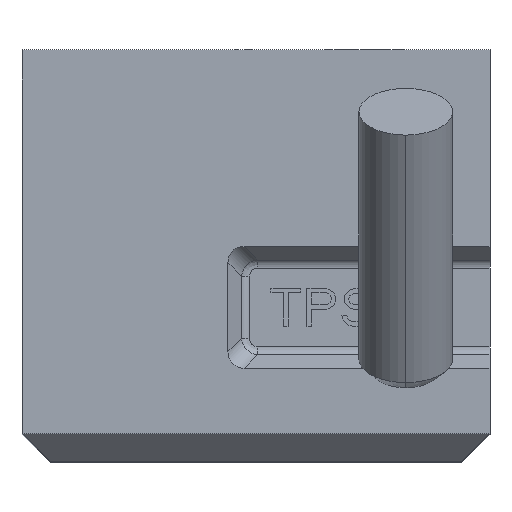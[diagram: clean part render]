
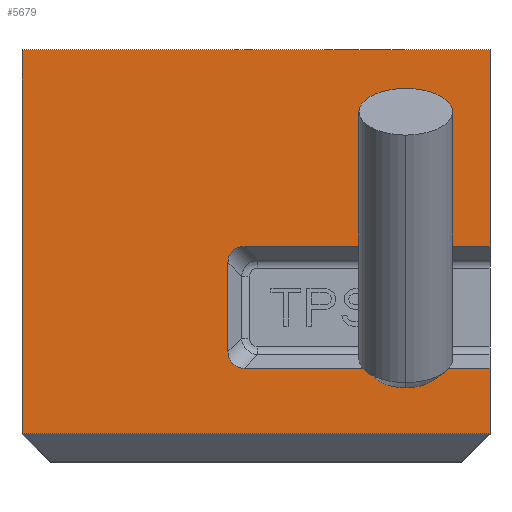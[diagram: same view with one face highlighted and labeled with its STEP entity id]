
A CAD part, top view. The second image highlights one B-rep face of the part: STEP entity #5679.
In plain terms, the highlighted planar face has unit normal (0, 0, 1).
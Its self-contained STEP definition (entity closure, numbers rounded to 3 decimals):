
#634=DIRECTION('',(0.,1.,0.));
#635=VECTOR('',#634,4.768);
#636=CARTESIAN_POINT('',(-1.5,5.866,5.));
#637=LINE('',#636,#635);
#638=CARTESIAN_POINT('',(-1.5,5.866,5.));
#639=CARTESIAN_POINT('',(-1.5,5.794,5.));
#640=CARTESIAN_POINT('',(-1.486,5.664,5.));
#641=CARTESIAN_POINT('',(-1.418,5.443,5.));
#642=CARTESIAN_POINT('',(-1.272,5.228,5.));
#643=CARTESIAN_POINT('',(-1.057,5.082,5.));
#644=CARTESIAN_POINT('',(-0.836,5.014,5.));
#645=CARTESIAN_POINT('',(-0.706,5.,5.));
#646=CARTESIAN_POINT('',(-0.634,5.,5.));
#648=DIRECTION('',(-1.,0.,0.));
#649=VECTOR('',#648,13.134);
#650=CARTESIAN_POINT('',(12.5,5.,5.));
#651=LINE('',#650,#649);
#652=DIRECTION('',(0.,-1.,0.));
#653=VECTOR('',#652,3.5);
#654=CARTESIAN_POINT('',(12.5,5.,5.));
#655=LINE('',#654,#653);
#656=DIRECTION('',(-1.,0.,0.));
#657=VECTOR('',#656,25.);
#658=CARTESIAN_POINT('',(12.5,1.5,5.));
#659=LINE('',#658,#657);
#660=DIRECTION('',(0.,1.,0.));
#661=VECTOR('',#660,20.5);
#662=CARTESIAN_POINT('',(-12.5,1.5,5.));
#663=LINE('',#662,#661);
#664=DIRECTION('',(1.,0.,0.));
#665=VECTOR('',#664,25.);
#666=CARTESIAN_POINT('',(-12.5,22.,5.));
#667=LINE('',#666,#665);
#668=DIRECTION('',(0.,-1.,0.));
#669=VECTOR('',#668,10.5);
#670=CARTESIAN_POINT('',(12.5,22.,5.));
#671=LINE('',#670,#669);
#672=CARTESIAN_POINT('',(-0.634,11.5,5.));
#673=CARTESIAN_POINT('',(-0.706,11.5,5.));
#674=CARTESIAN_POINT('',(-0.836,11.486,5.));
#675=CARTESIAN_POINT('',(-1.057,11.418,5.));
#676=CARTESIAN_POINT('',(-1.272,11.272,5.));
#677=CARTESIAN_POINT('',(-1.418,11.057,5.));
#678=CARTESIAN_POINT('',(-1.486,10.836,5.));
#679=CARTESIAN_POINT('',(-1.5,10.706,5.));
#680=CARTESIAN_POINT('',(-1.5,10.634,5.));
#727=DIRECTION('',(1.,0.,0.));
#728=VECTOR('',#727,13.134);
#729=CARTESIAN_POINT('',(-0.634,11.5,5.));
#730=LINE('',#729,#728);
#3453=CARTESIAN_POINT('',(-1.5,5.866,5.));
#3454=CARTESIAN_POINT('',(-1.5,10.634,5.));
#3455=VERTEX_POINT('',#3453);
#3456=VERTEX_POINT('',#3454);
#3457=CARTESIAN_POINT('',(12.5,5.,5.));
#3458=CARTESIAN_POINT('',(-0.634,5.,5.));
#3459=VERTEX_POINT('',#3457);
#3460=VERTEX_POINT('',#3458);
#3484=CARTESIAN_POINT('',(12.5,22.,5.));
#3485=VERTEX_POINT('',#3484);
#3486=CARTESIAN_POINT('',(-12.5,22.,5.));
#3487=VERTEX_POINT('',#3486);
#3582=CARTESIAN_POINT('',(12.5,1.5,5.));
#3583=VERTEX_POINT('',#3582);
#3592=CARTESIAN_POINT('',(12.5,11.5,5.));
#3593=VERTEX_POINT('',#3592);
#3602=CARTESIAN_POINT('',(-12.5,1.5,5.));
#3603=VERTEX_POINT('',#3602);
#3608=CARTESIAN_POINT('',(-0.634,11.5,5.));
#3609=VERTEX_POINT('',#3608);
#5656=CARTESIAN_POINT('',(0.,0.,5.));
#5657=DIRECTION('',(0.,0.,1.));
#5658=DIRECTION('',(1.,0.,0.));
#5659=AXIS2_PLACEMENT_3D('',#5656,#5657,#5658);
#5660=PLANE('',#5659);
#5662=ORIENTED_EDGE('',*,*,#5661,.F.);
#5664=ORIENTED_EDGE('',*,*,#5663,.T.);
#5666=ORIENTED_EDGE('',*,*,#5665,.F.);
#5667=ORIENTED_EDGE('',*,*,#5561,.T.);
#5668=ORIENTED_EDGE('',*,*,#5648,.T.);
#5670=ORIENTED_EDGE('',*,*,#5669,.T.);
#5671=ORIENTED_EDGE('',*,*,#5228,.T.);
#5672=ORIENTED_EDGE('',*,*,#5573,.T.);
#5674=ORIENTED_EDGE('',*,*,#5673,.F.);
#5676=ORIENTED_EDGE('',*,*,#5675,.T.);
#5677=EDGE_LOOP('',(#5662,#5664,#5666,#5667,#5668,#5670,#5671,#5672,#5674,
#5676));
#5678=FACE_OUTER_BOUND('',#5677,.F.);
#5679=ADVANCED_FACE('',(#5678),#5660,.T.);
#647=B_SPLINE_CURVE_WITH_KNOTS('',3,(#638,#639,#640,#641,#642,#643,#644,#645,
#646),.UNSPECIFIED.,.F.,.F.,(4,1,1,1,1,1,4),(0.,0.125,0.25,0.5,0.75,
0.875,1.),.UNSPECIFIED.);
#681=B_SPLINE_CURVE_WITH_KNOTS('',3,(#672,#673,#674,#675,#676,#677,#678,#679,
#680),.UNSPECIFIED.,.F.,.F.,(4,1,1,1,1,1,4),(0.,0.125,0.25,0.5,0.75,
0.875,1.),.UNSPECIFIED.);
#5228=EDGE_CURVE('',#3487,#3485,#667,.T.);
#5561=EDGE_CURVE('',#3459,#3583,#655,.T.);
#5573=EDGE_CURVE('',#3485,#3593,#671,.T.);
#5648=EDGE_CURVE('',#3583,#3603,#659,.T.);
#5661=EDGE_CURVE('',#3455,#3456,#637,.T.);
#5663=EDGE_CURVE('',#3455,#3460,#647,.T.);
#5665=EDGE_CURVE('',#3459,#3460,#651,.T.);
#5669=EDGE_CURVE('',#3603,#3487,#663,.T.);
#5673=EDGE_CURVE('',#3609,#3593,#730,.T.);
#5675=EDGE_CURVE('',#3609,#3456,#681,.T.);
